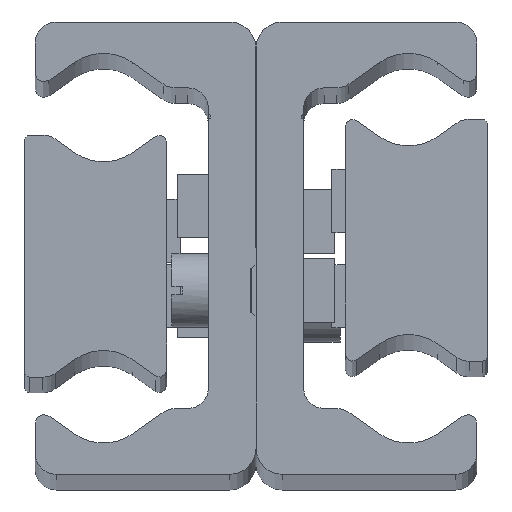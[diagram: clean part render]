
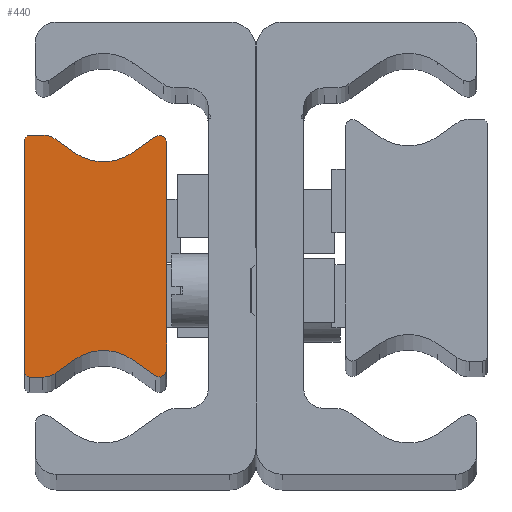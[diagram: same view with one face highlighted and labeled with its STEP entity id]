
A CAD part, top view. The second image highlights one B-rep face of the part: STEP entity #440.
In plain terms, the highlighted planar face has unit normal (0, 0, 1) as drawn and (0, 0, -1) by its records, which use the part's own axes.
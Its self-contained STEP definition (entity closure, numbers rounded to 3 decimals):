
#440 = ADVANCED_FACE( '', ( #958 ), #959, .F. );
#958 = FACE_OUTER_BOUND( '', #1604, .T. );
#959 = PLANE( '', #1605 );
#1604 = EDGE_LOOP( '', ( #2600, #2601, #2602, #2603, #2604, #2605, #2606, #2607, #2608, #2609, #2610, #2611, #2612, #2613, #2614, #2615 ) );
#1605 = AXIS2_PLACEMENT_3D( '', #2616, #2617, #2618 );
#2600 = ORIENTED_EDGE( '', *, *, #3551, .F. );
#2601 = ORIENTED_EDGE( '', *, *, #3645, .F. );
#2602 = ORIENTED_EDGE( '', *, *, #3646, .F. );
#2603 = ORIENTED_EDGE( '', *, *, #3647, .F. );
#2604 = ORIENTED_EDGE( '', *, *, #3648, .F. );
#2605 = ORIENTED_EDGE( '', *, *, #3482, .T. );
#2606 = ORIENTED_EDGE( '', *, *, #3615, .F. );
#2607 = ORIENTED_EDGE( '', *, *, #3649, .F. );
#2608 = ORIENTED_EDGE( '', *, *, #3650, .F. );
#2609 = ORIENTED_EDGE( '', *, *, #3487, .F. );
#2610 = ORIENTED_EDGE( '', *, *, #3651, .F. );
#2611 = ORIENTED_EDGE( '', *, *, #3407, .T. );
#2612 = ORIENTED_EDGE( '', *, *, #3469, .F. );
#2613 = ORIENTED_EDGE( '', *, *, #3562, .F. );
#2614 = ORIENTED_EDGE( '', *, *, #3431, .F. );
#2615 = ORIENTED_EDGE( '', *, *, #3652, .F. );
#2616 = CARTESIAN_POINT( '', ( 0.5, -11., -850. ) );
#2617 = DIRECTION( '', ( 0., 0., 1. ) );
#2618 = DIRECTION( '', ( 1., 0., 0. ) );
#3407 = EDGE_CURVE( '', #3995, #3993, #3996, .T. );
#3431 = EDGE_CURVE( '', #4033, #4035, #4036, .T. );
#3469 = EDGE_CURVE( '', #4097, #3993, #4099, .T. );
#3482 = EDGE_CURVE( '', #4120, #4118, #4121, .T. );
#3487 = EDGE_CURVE( '', #4127, #4129, #4130, .T. );
#3551 = EDGE_CURVE( '', #4232, #4234, #4235, .T. );
#3562 = EDGE_CURVE( '', #4035, #4097, #4250, .T. );
#3615 = EDGE_CURVE( '', #4324, #4118, #4326, .T. );
#3645 = EDGE_CURVE( '', #4373, #4232, #4374, .T. );
#3646 = EDGE_CURVE( '', #4375, #4373, #4376, .T. );
#3647 = EDGE_CURVE( '', #4377, #4375, #4378, .T. );
#3648 = EDGE_CURVE( '', #4120, #4377, #4379, .T. );
#3649 = EDGE_CURVE( '', #4380, #4324, #4381, .T. );
#3650 = EDGE_CURVE( '', #4129, #4380, #4382, .T. );
#3651 = EDGE_CURVE( '', #3995, #4127, #4383, .T. );
#3652 = EDGE_CURVE( '', #4234, #4033, #4384, .T. );
#3993 = VERTEX_POINT( '', #4825 );
#3995 = VERTEX_POINT( '', #4828 );
#3996 = CIRCLE( '', #4829, 4.763 );
#4033 = VERTEX_POINT( '', #4872 );
#4035 = VERTEX_POINT( '', #4875 );
#4036 = LINE( '', #4876, #4877 );
#4097 = VERTEX_POINT( '', #4952 );
#4099 = LINE( '', #4955, #4956 );
#4118 = VERTEX_POINT( '', #4978 );
#4120 = VERTEX_POINT( '', #4981 );
#4121 = CIRCLE( '', #4982, 4.763 );
#4127 = VERTEX_POINT( '', #4989 );
#4129 = VERTEX_POINT( '', #4992 );
#4130 = CIRCLE( '', #4993, 0.668 );
#4232 = VERTEX_POINT( '', #5125 );
#4234 = VERTEX_POINT( '', #5128 );
#4235 = LINE( '', #5129, #5130 );
#4250 = CIRCLE( '', #5147, 2. );
#4324 = VERTEX_POINT( '', #5239 );
#4326 = LINE( '', #5242, #5243 );
#4373 = VERTEX_POINT( '', #5305 );
#4374 = CIRCLE( '', #5306, 0.5 );
#4375 = VERTEX_POINT( '', #5307 );
#4376 = LINE( '', #5308, #5309 );
#4377 = VERTEX_POINT( '', #5310 );
#4378 = CIRCLE( '', #5311, 2. );
#4379 = LINE( '', #5312, #5313 );
#4380 = VERTEX_POINT( '', #5314 );
#4381 = CIRCLE( '', #5315, 0.668 );
#4382 = LINE( '', #5316, #5317 );
#4383 = LINE( '', #5318, #5319 );
#4384 = CIRCLE( '', #5320, 0.5 );
#4825 = CARTESIAN_POINT( '', ( 4.768, -9.827, -850. ) );
#4828 = CARTESIAN_POINT( '', ( 10.232, -9.827, -850. ) );
#4829 = AXIS2_PLACEMENT_3D( '', #5721, #5722, #5723 );
#4872 = CARTESIAN_POINT( '', ( 0.5, -11.5, -850. ) );
#4875 = CARTESIAN_POINT( '', ( 1.748, -11.5, -850. ) );
#4876 = CARTESIAN_POINT( '', ( 0.5, -11.5, -850. ) );
#4877 = VECTOR( '', #5761, 1000. );
#4952 = CARTESIAN_POINT( '', ( 2.895, -11.138, -850. ) );
#4955 = CARTESIAN_POINT( '', ( 2.895, -11.138, -850. ) );
#4956 = VECTOR( '', #5819, 1000. );
#4978 = CARTESIAN_POINT( '', ( 10.232, 9.827, -850. ) );
#4981 = CARTESIAN_POINT( '', ( 4.768, 9.827, -850. ) );
#4982 = AXIS2_PLACEMENT_3D( '', #5836, #5837, #5838 );
#4989 = CARTESIAN_POINT( '', ( 12.449, -11.379, -850. ) );
#4992 = CARTESIAN_POINT( '', ( 13.5, -10.832, -850. ) );
#4993 = AXIS2_PLACEMENT_3D( '', #5844, #5845, #5846 );
#5125 = CARTESIAN_POINT( '', ( 0., 11., -850. ) );
#5128 = CARTESIAN_POINT( '', ( 0., -11., -850. ) );
#5129 = CARTESIAN_POINT( '', ( 0., 11., -850. ) );
#5130 = VECTOR( '', #5929, 1000. );
#5147 = AXIS2_PLACEMENT_3D( '', #5947, #5948, #5949 );
#5239 = CARTESIAN_POINT( '', ( 12.449, 11.379, -850. ) );
#5242 = CARTESIAN_POINT( '', ( 12.449, 11.379, -850. ) );
#5243 = VECTOR( '', #6005, 1000. );
#5305 = CARTESIAN_POINT( '', ( 0.5, 11.5, -850. ) );
#5306 = AXIS2_PLACEMENT_3D( '', #6045, #6046, #6047 );
#5307 = CARTESIAN_POINT( '', ( 1.748, 11.5, -850. ) );
#5308 = CARTESIAN_POINT( '', ( 1.748, 11.5, -850. ) );
#5309 = VECTOR( '', #6048, 1000. );
#5310 = CARTESIAN_POINT( '', ( 2.895, 11.138, -850. ) );
#5311 = AXIS2_PLACEMENT_3D( '', #6049, #6050, #6051 );
#5312 = CARTESIAN_POINT( '', ( 4.768, 9.827, -850. ) );
#5313 = VECTOR( '', #6052, 1000. );
#5314 = CARTESIAN_POINT( '', ( 13.5, 10.832, -850. ) );
#5315 = AXIS2_PLACEMENT_3D( '', #6053, #6054, #6055 );
#5316 = CARTESIAN_POINT( '', ( 13.5, -10.832, -850. ) );
#5317 = VECTOR( '', #6056, 1000. );
#5318 = CARTESIAN_POINT( '', ( 10.232, -9.827, -850. ) );
#5319 = VECTOR( '', #6057, 1000. );
#5320 = AXIS2_PLACEMENT_3D( '', #6058, #6059, #6060 );
#5721 = CARTESIAN_POINT( '', ( 7.5, -13.729, -850. ) );
#5722 = DIRECTION( '', ( 0., 0., 1. ) );
#5723 = DIRECTION( '', ( 1., 0., 0. ) );
#5761 = DIRECTION( '', ( 1., 0., 0. ) );
#5819 = DIRECTION( '', ( 0.819, 0.574, 0. ) );
#5836 = CARTESIAN_POINT( '', ( 7.5, 13.729, -850. ) );
#5837 = DIRECTION( '', ( 0., 0., 1. ) );
#5838 = DIRECTION( '', ( 1., 0., 0. ) );
#5844 = CARTESIAN_POINT( '', ( 12.832, -10.832, -850. ) );
#5845 = DIRECTION( '', ( 0., 0., 1. ) );
#5846 = DIRECTION( '', ( 1., 0., 0. ) );
#5929 = DIRECTION( '', ( 0., -1., 0. ) );
#5947 = CARTESIAN_POINT( '', ( 1.748, -9.5, -850. ) );
#5948 = DIRECTION( '', ( 0., 0., 1. ) );
#5949 = DIRECTION( '', ( 1., 0., 0. ) );
#6005 = DIRECTION( '', ( -0.819, -0.574, 0. ) );
#6045 = CARTESIAN_POINT( '', ( 0.5, 11., -850. ) );
#6046 = DIRECTION( '', ( 0., 0., 1. ) );
#6047 = DIRECTION( '', ( 1., 0., 0. ) );
#6048 = DIRECTION( '', ( -1., 0., 0. ) );
#6049 = CARTESIAN_POINT( '', ( 1.748, 9.5, -850. ) );
#6050 = DIRECTION( '', ( 0., 0., 1. ) );
#6051 = DIRECTION( '', ( 1., 0., 0. ) );
#6052 = DIRECTION( '', ( -0.819, 0.574, 0. ) );
#6053 = CARTESIAN_POINT( '', ( 12.832, 10.832, -850. ) );
#6054 = DIRECTION( '', ( 0., 0., 1. ) );
#6055 = DIRECTION( '', ( 1., 0., 0. ) );
#6056 = DIRECTION( '', ( 0., 1., 0. ) );
#6057 = DIRECTION( '', ( 0.819, -0.574, 0. ) );
#6058 = CARTESIAN_POINT( '', ( 0.5, -11., -850. ) );
#6059 = DIRECTION( '', ( 0., 0., 1. ) );
#6060 = DIRECTION( '', ( 1., 0., 0. ) );
